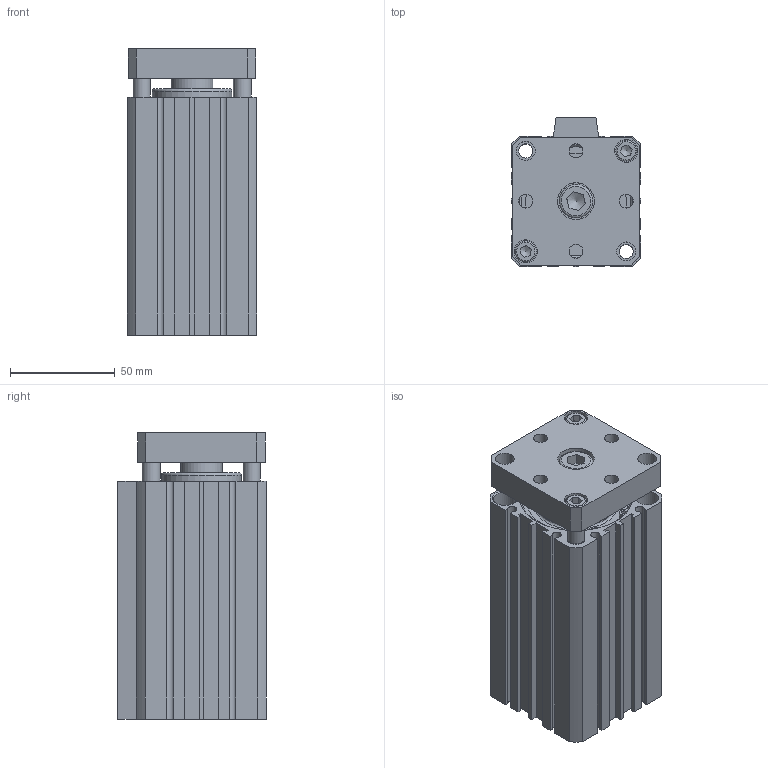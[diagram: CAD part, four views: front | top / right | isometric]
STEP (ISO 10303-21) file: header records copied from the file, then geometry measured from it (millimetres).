
FILE_DESCRIPTION((''),'2;1');
FILE_NAME('I:\3D電子目錄\氣缸\JTD\JTD\JTD50\JTD50x85.stp','2007-08-14T19:28:50',('Administrator'),(''),'Autodesk Inventor 11','Autodesk Inventor 11','');
FILE_SCHEMA(('AUTOMOTIVE_DESIGN { 1 0 10303 214 1 1 1 1 }'));
Length unit declared in the file: millimetre
Products named in the file (5): JTD50; R 形環 52; ISO 4762 M10 x 16; ISO 4762 M6 x 20
Assembly tree (6 placements, depth 2):
  JTD50
    JTD50
    R 形環 52  x2
    ISO 4762 M10 x 16
    ISO 4762 M6 x 20  x2
Bounding box: 62 x 71 x 136.6 mm (x, y, z)
Volume: 440107.3 mm3; surface area: 87540.6 mm2
Topology: 6 solids, 6 shells, 228 faces, 548 edges, 360 vertices
Faces by surface type: plane 135, cylinder 58, bspline 16, cone 14, torus 5
Full cylindrical faces by diameter (mm): 2.3 x4, 2.7 x2, 6 x2, 6.8 x2, 8 x2, 8.5 x3, 9 x2, 10 x3, 11 x4, 16 x1, 20 x1, 37 x1, 38 x1, 52 x4, 55 x2
Entity records: 5925 total; most frequent: CARTESIAN_POINT 1242, DIRECTION 938, ORIENTED_EDGE 844, EDGE_CURVE 422, AXIS2_PLACEMENT_3D 331, EDGE_LOOP 314, VERTEX_POINT 313, VECTOR 276
